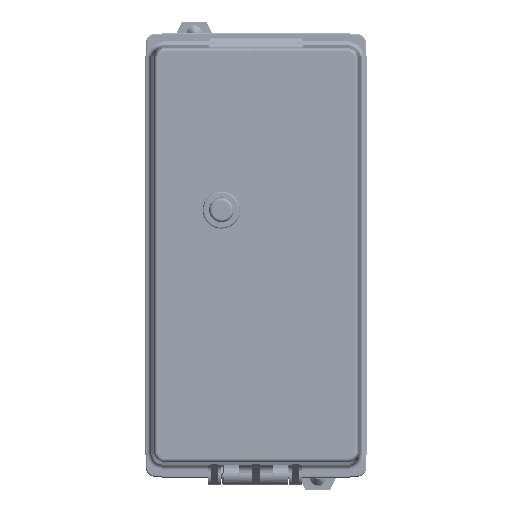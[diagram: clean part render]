
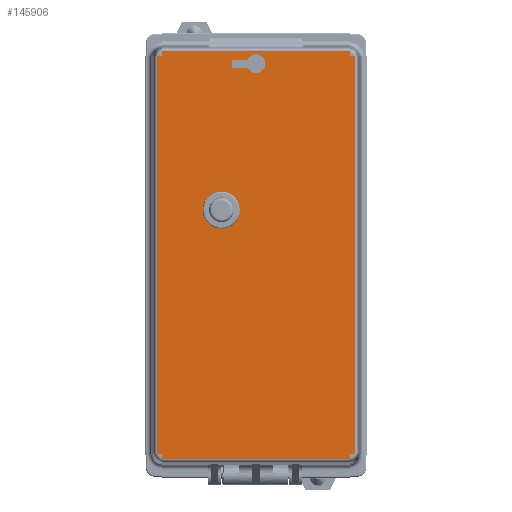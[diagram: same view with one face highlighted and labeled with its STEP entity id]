
A CAD part, top view. The second image highlights one B-rep face of the part: STEP entity #145906.
In plain terms, the highlighted planar face has unit normal (0, 0, 1).
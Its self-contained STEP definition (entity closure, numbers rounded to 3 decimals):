
#3117 = ORIENTED_EDGE ( 'NONE', *, *, #222521, .T. ) ;
#3452 = CARTESIAN_POINT ( 'NONE',  ( 0., 10., 31. ) ) ;
#6326 = CARTESIAN_POINT ( 'NONE',  ( -30.5, 75.982, 31. ) ) ;
#8008 = EDGE_CURVE ( 'NONE', #63652, #103536, #60068, .T. ) ;
#8473 = VERTEX_POINT ( 'NONE', #246682 ) ;
#10775 = CARTESIAN_POINT ( 'NONE',  ( 30.5, -55.982, 31. ) ) ;
#14451 = LINE ( 'NONE', #141226, #80512 ) ;
#18021 = CARTESIAN_POINT ( 'NONE',  ( -7.8, 70.725, 31. ) ) ;
#20976 = CARTESIAN_POINT ( 'NONE',  ( -31.982, 74.5, 31. ) ) ;
#24645 = ORIENTED_EDGE ( 'NONE', *, *, #195602, .T. ) ;
#27344 = ORIENTED_EDGE ( 'NONE', *, *, #151900, .F. ) ;
#28601 = CARTESIAN_POINT ( 'NONE',  ( -31.982, -54.5, 31. ) ) ;
#29792 = LINE ( 'NONE', #112968, #106128 ) ;
#31768 = ORIENTED_EDGE ( 'NONE', *, *, #178674, .F. ) ;
#34203 = CARTESIAN_POINT ( 'NONE',  ( -30.5, 74.5, 31. ) ) ;
#34432 = ORIENTED_EDGE ( 'NONE', *, *, #239197, .T. ) ;
#35654 = VERTEX_POINT ( 'NONE', #215701 ) ;
#36931 = CARTESIAN_POINT ( 'NONE',  ( -30.5, -54.5, 31. ) ) ;
#39602 = CARTESIAN_POINT ( 'NONE',  ( 30.5, -55.982, 31. ) ) ;
#40412 = CARTESIAN_POINT ( 'NONE',  ( -11.232, 24.592, 31. ) ) ;
#42774 = CARTESIAN_POINT ( 'NONE',  ( 31.982, -54.5, 31. ) ) ;
#46577 = DIRECTION ( 'NONE',  ( 0., -1., 0. ) ) ;
#48079 = CARTESIAN_POINT ( 'NONE',  ( -31.982, -54.5, 31. ) ) ;
#51831 = VERTEX_POINT ( 'NONE', #167383 ) ;
#53605 = VERTEX_POINT ( 'NONE', #42774 ) ;
#55128 = EDGE_CURVE ( 'NONE', #188095, #53605, #117487, .T. ) ;
#56356 = ORIENTED_EDGE ( 'NONE', *, *, #236022, .T. ) ;
#59986 = DIRECTION ( 'NONE',  ( -1., 0., 0. ) ) ;
#60068 = LINE ( 'NONE', #39602, #181605 ) ;
#62075 = VERTEX_POINT ( 'NONE', #209066 ) ;
#62139 = VERTEX_POINT ( 'NONE', #107166 ) ;
#63652 = VERTEX_POINT ( 'NONE', #95197 ) ;
#67516 = FACE_BOUND ( 'NONE', #133705, .T. ) ;
#69449 = ORIENTED_EDGE ( 'NONE', *, *, #255561, .T. ) ;
#73029 = ORIENTED_EDGE ( 'NONE', *, *, #55128, .F. ) ;
#73393 = CARTESIAN_POINT ( 'NONE',  ( -30.5, 74.5, 31. ) ) ;
#76071 = VECTOR ( 'NONE', #110785, 1000. ) ;
#80512 = VECTOR ( 'NONE', #82599, 1000. ) ;
#82599 = DIRECTION ( 'NONE',  ( 0., 1., 0. ) ) ;
#82675 = FACE_BOUND ( 'NONE', #129044, .T. ) ;
#83300 = DIRECTION ( 'NONE',  ( -1., 0., 0. ) ) ;
#86754 = DIRECTION ( 'NONE',  ( 0., 0., 1. ) ) ;
#92597 = VECTOR ( 'NONE', #121029, 1000. ) ;
#92816 = EDGE_CURVE ( 'NONE', #35654, #266139, #248352, .T. ) ;
#93272 = VERTEX_POINT ( 'NONE', #101619 ) ;
#93327 = CIRCLE ( 'NONE', #115063, 3.025 ) ;
#95197 = CARTESIAN_POINT ( 'NONE',  ( 30.5, -55.982, 31. ) ) ;
#99937 = EDGE_CURVE ( 'NONE', #35654, #136521, #186806, .T. ) ;
#101619 = CARTESIAN_POINT ( 'NONE',  ( 30.5, 74.5, 31. ) ) ;
#103536 = VERTEX_POINT ( 'NONE', #140729 ) ;
#104279 = AXIS2_PLACEMENT_3D ( 'NONE', #40412, #168552, #206815 ) ;
#104754 = LINE ( 'NONE', #146983, #247258 ) ;
#106128 = VECTOR ( 'NONE', #175671, 1000. ) ;
#106249 = VERTEX_POINT ( 'NONE', #18021 ) ;
#106621 = CARTESIAN_POINT ( 'NONE',  ( 0., 72., 31. ) ) ;
#106952 = LINE ( 'NONE', #163226, #92597 ) ;
#107166 = CARTESIAN_POINT ( 'NONE',  ( -11.232, 18.592, 31. ) ) ;
#108291 = VECTOR ( 'NONE', #153565, 1000. ) ;
#110593 = LINE ( 'NONE', #230764, #175482 ) ;
#110785 = DIRECTION ( 'NONE',  ( 1., 0., 0. ) ) ;
#112968 = CARTESIAN_POINT ( 'NONE',  ( 30.5, -54.5, 31. ) ) ;
#115028 = LINE ( 'NONE', #220127, #244431 ) ;
#115063 = AXIS2_PLACEMENT_3D ( 'NONE', #106621, #249846, #46577 ) ;
#117487 = LINE ( 'NONE', #181553, #149871 ) ;
#117701 = ORIENTED_EDGE ( 'NONE', *, *, #162427, .T. ) ;
#119120 = DIRECTION ( 'NONE',  ( 0., 1., 0. ) ) ;
#119281 = VECTOR ( 'NONE', #119120, 1000. ) ;
#119391 = CARTESIAN_POINT ( 'NONE',  ( 31.982, 74.5, 31. ) ) ;
#121029 = DIRECTION ( 'NONE',  ( 1., 0., 0. ) ) ;
#122238 = ORIENTED_EDGE ( 'NONE', *, *, #159419, .T. ) ;
#124910 = DIRECTION ( 'NONE',  ( 0., 1., 0. ) ) ;
#126946 = CARTESIAN_POINT ( 'NONE',  ( -30.5, 75.982, 31. ) ) ;
#128894 = VERTEX_POINT ( 'NONE', #20976 ) ;
#128999 = DIRECTION ( 'NONE',  ( 0., -1., 0. ) ) ;
#129044 = EDGE_LOOP ( 'NONE', ( #139041, #117701, #264601, #56356 ) ) ;
#133705 = EDGE_LOOP ( 'NONE', ( #31768 ) ) ;
#133756 = ORIENTED_EDGE ( 'NONE', *, *, #8008, .F. ) ;
#135311 = CARTESIAN_POINT ( 'NONE',  ( -2.743, 73.275, 31. ) ) ;
#136152 = VECTOR ( 'NONE', #124910, 1000. ) ;
#136521 = VERTEX_POINT ( 'NONE', #73393 ) ;
#139041 = ORIENTED_EDGE ( 'NONE', *, *, #165634, .T. ) ;
#140729 = CARTESIAN_POINT ( 'NONE',  ( -30.5, -55.982, 31. ) ) ;
#141226 = CARTESIAN_POINT ( 'NONE',  ( -7.8, 70.725, 31. ) ) ;
#145906 = ADVANCED_FACE ( 'NONE', ( #67516, #82675, #250391 ), #190305, .T. ) ;
#146983 = CARTESIAN_POINT ( 'NONE',  ( -30.5, -54.5, 31. ) ) ;
#149871 = VECTOR ( 'NONE', #200637, 1000. ) ;
#151073 = EDGE_CURVE ( 'NONE', #63652, #51831, #216816, .T. ) ;
#151900 = EDGE_CURVE ( 'NONE', #250120, #128894, #244649, .T. ) ;
#153565 = DIRECTION ( 'NONE',  ( 0., -1., 0. ) ) ;
#153911 = ORIENTED_EDGE ( 'NONE', *, *, #99937, .T. ) ;
#154982 = EDGE_CURVE ( 'NONE', #202910, #103536, #104754, .T. ) ;
#156637 = DIRECTION ( 'NONE',  ( 0., 1., 0. ) ) ;
#157324 = CARTESIAN_POINT ( 'NONE',  ( -31.982, -54.5, 31. ) ) ;
#159419 = EDGE_CURVE ( 'NONE', #188095, #93272, #110593, .T. ) ;
#160848 = CIRCLE ( 'NONE', #104279, 6. ) ;
#162427 = EDGE_CURVE ( 'NONE', #8473, #106249, #115028, .T. ) ;
#162760 = ORIENTED_EDGE ( 'NONE', *, *, #151073, .T. ) ;
#163226 = CARTESIAN_POINT ( 'NONE',  ( -7.8, 73.275, 31. ) ) ;
#165634 = EDGE_CURVE ( 'NONE', #234858, #8473, #93327, .T. ) ;
#167383 = CARTESIAN_POINT ( 'NONE',  ( 30.5, -54.5, 31. ) ) ;
#168552 = DIRECTION ( 'NONE',  ( 0., 0., 1. ) ) ;
#175482 = VECTOR ( 'NONE', #253911, 1000. ) ;
#175671 = DIRECTION ( 'NONE',  ( 1., 0., 0. ) ) ;
#178674 = EDGE_CURVE ( 'NONE', #62139, #62139, #160848, .T. ) ;
#180121 = LINE ( 'NONE', #34203, #241668 ) ;
#181553 = CARTESIAN_POINT ( 'NONE',  ( 31.982, 74.5, 31. ) ) ;
#181605 = VECTOR ( 'NONE', #83300, 1000. ) ;
#186806 = LINE ( 'NONE', #6326, #108291 ) ;
#188095 = VERTEX_POINT ( 'NONE', #119391 ) ;
#188404 = VECTOR ( 'NONE', #156637, 1000. ) ;
#190305 = PLANE ( 'NONE',  #211908 ) ;
#195602 = EDGE_CURVE ( 'NONE', #51831, #53605, #29792, .T. ) ;
#200637 = DIRECTION ( 'NONE',  ( 0., -1., 0. ) ) ;
#202646 = LINE ( 'NONE', #247689, #136152 ) ;
#202910 = VERTEX_POINT ( 'NONE', #36931 ) ;
#206815 = DIRECTION ( 'NONE',  ( 0., -1., 0. ) ) ;
#208059 = EDGE_CURVE ( 'NONE', #106249, #62075, #14451, .T. ) ;
#209066 = CARTESIAN_POINT ( 'NONE',  ( -7.8, 73.275, 31. ) ) ;
#210100 = DIRECTION ( 'NONE',  ( 1., 0., 0. ) ) ;
#211815 = LINE ( 'NONE', #48079, #76071 ) ;
#211908 = AXIS2_PLACEMENT_3D ( 'NONE', #3452, #86754, #128999 ) ;
#215701 = CARTESIAN_POINT ( 'NONE',  ( -30.5, 75.982, 31. ) ) ;
#216816 = LINE ( 'NONE', #10775, #188404 ) ;
#220127 = CARTESIAN_POINT ( 'NONE',  ( -2.743, 70.725, 31. ) ) ;
#221748 = EDGE_LOOP ( 'NONE', ( #27344, #3117, #253698, #133756, #162760, #24645, #73029, #122238, #69449, #254380, #153911, #34432 ) ) ;
#222521 = EDGE_CURVE ( 'NONE', #250120, #202910, #211815, .T. ) ;
#230764 = CARTESIAN_POINT ( 'NONE',  ( 31.982, 74.5, 31. ) ) ;
#234858 = VERTEX_POINT ( 'NONE', #135311 ) ;
#236022 = EDGE_CURVE ( 'NONE', #62075, #234858, #106952, .T. ) ;
#239197 = EDGE_CURVE ( 'NONE', #136521, #128894, #180121, .T. ) ;
#241668 = VECTOR ( 'NONE', #262037, 1000. ) ;
#244431 = VECTOR ( 'NONE', #59986, 1000. ) ;
#244649 = LINE ( 'NONE', #157324, #119281 ) ;
#245448 = VECTOR ( 'NONE', #210100, 1000. ) ;
#246682 = CARTESIAN_POINT ( 'NONE',  ( -2.743, 70.725, 31. ) ) ;
#247258 = VECTOR ( 'NONE', #254746, 1000. ) ;
#247689 = CARTESIAN_POINT ( 'NONE',  ( 30.5, 74.5, 31. ) ) ;
#248352 = LINE ( 'NONE', #126946, #245448 ) ;
#248786 = CARTESIAN_POINT ( 'NONE',  ( 30.5, 75.982, 31. ) ) ;
#249846 = DIRECTION ( 'NONE',  ( 0., 0., -1. ) ) ;
#250120 = VERTEX_POINT ( 'NONE', #28601 ) ;
#250391 = FACE_OUTER_BOUND ( 'NONE', #221748, .T. ) ;
#253698 = ORIENTED_EDGE ( 'NONE', *, *, #154982, .T. ) ;
#253911 = DIRECTION ( 'NONE',  ( -1., 0., 0. ) ) ;
#254380 = ORIENTED_EDGE ( 'NONE', *, *, #92816, .F. ) ;
#254746 = DIRECTION ( 'NONE',  ( 0., -1., 0. ) ) ;
#255561 = EDGE_CURVE ( 'NONE', #93272, #266139, #202646, .T. ) ;
#262037 = DIRECTION ( 'NONE',  ( -1., 0., 0. ) ) ;
#264601 = ORIENTED_EDGE ( 'NONE', *, *, #208059, .T. ) ;
#266139 = VERTEX_POINT ( 'NONE', #248786 ) ;
